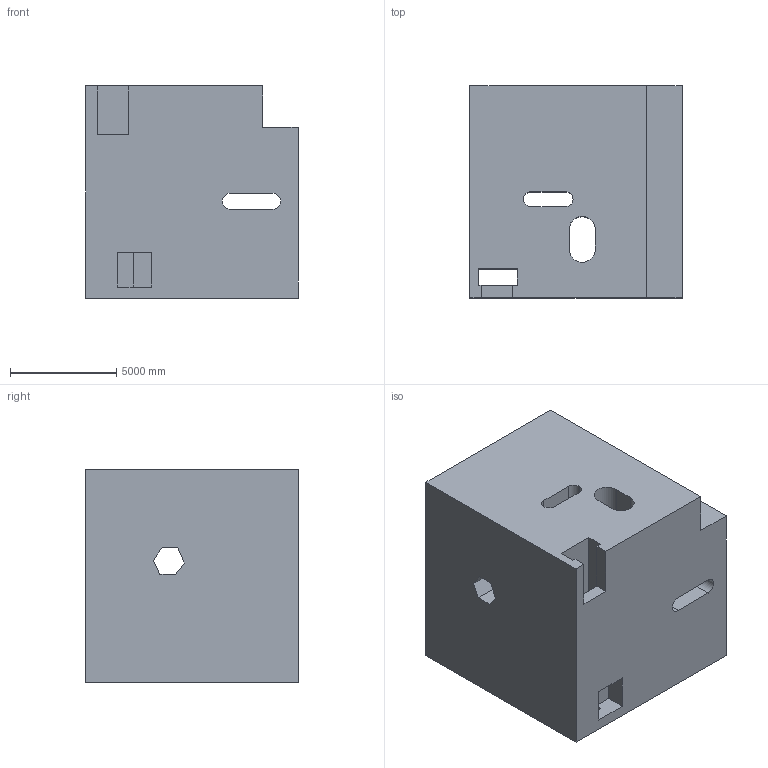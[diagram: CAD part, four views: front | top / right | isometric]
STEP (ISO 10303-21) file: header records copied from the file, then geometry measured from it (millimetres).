
FILE_DESCRIPTION (( 'STEP AP203' ), '1' );
FILE_NAME ('187.STEP', '2022-09-06T15:26:06', ( 'user' ), ( '' ), 'SwSTEP 2.0', 'SolidWorks 2021', '' );
FILE_SCHEMA (( 'CONFIG_CONTROL_DESIGN' ));
Length unit declared in the file: centimetre
Products named in the file (1): 187
Bounding box: 10000 x 10000 x 10000 mm (x, y, z)
Volume: 872472333405.3 mm3; surface area: 861224964.8 mm2
Topology: 1 solids, 1 shells, 45 faces, 129 edges, 86 vertices
Faces by surface type: plane 34, cylinder 11
Entity records: 1566 total; most frequent: CARTESIAN_POINT 261, ORIENTED_EDGE 258, DIRECTION 243, EDGE_CURVE 129, VECTOR 107, LINE 107, VERTEX_POINT 86, AXIS2_PLACEMENT_3D 68
